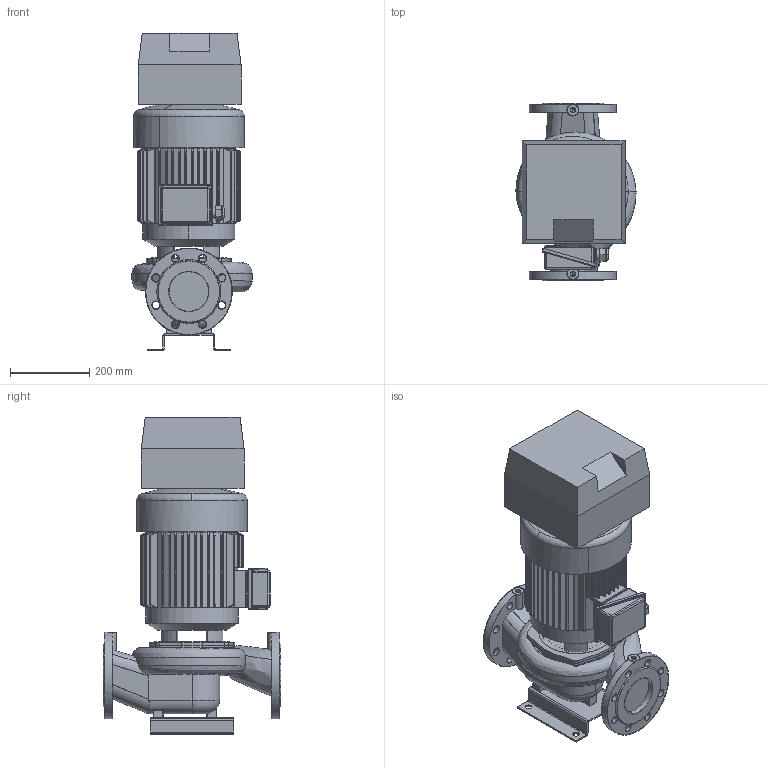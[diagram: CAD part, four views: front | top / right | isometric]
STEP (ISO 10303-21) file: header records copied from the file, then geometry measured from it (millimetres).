
FILE_DESCRIPTION(('STEP AP214'),'1');
FILE_NAME('export.stp','2018-08-08T12:09:55',(' '),(' '),'Spatial InterOp 3D',' ',' ');
FILE_SCHEMA(('AUTOMOTIVE_DESIGN { 1 0 10303 214 1 1 1 1 }'));
Length unit declared in the file: millimetre
Products named in the file (11): V_MOKN132; RU_OKN_132; TSUOJA_OKN_132_133; KYTKOTELO_OKN_100_133; V_Mkp-132_F19; V_EKF19OKN132; W_AL11022NC750KP; V_TLL65AB80A1102; V_PPAL1102; V_JALKA35973; NC_Size2
Assembly tree (10 placements, depth 4):
  W_AL11022NC750KP
    V_Mkp-132_F19
      V_MOKN132
        RU_OKN_132
        TSUOJA_OKN_132_133
        KYTKOTELO_OKN_100_133
      V_EKF19OKN132
    V_TLL65AB80A1102
    V_PPAL1102
    V_JALKA35973
    NC_Size2
Bounding box: 304.02 x 450 x 803.5 mm (x, y, z)
Volume: 31542153.9 mm3; surface area: 2510542.2 mm2
Topology: 8 solids, 9 shells, 971 faces, 2629 edges, 1658 vertices
Faces by surface type: cylinder 456, plane 343, cone 110, bspline 26, torus 16, sphere 12, offset 8
Entity records: 55646 total; most frequent: CARTESIAN_POINT 15128, ORIENTED_EDGE 5190, DIRECTION 4933, STYLED_ITEM 2703, PRESENTATION_STYLE_ASSIGNMENT 2703, COLOUR_RGB 2703, EDGE_CURVE 2595, AXIS2_PLACEMENT_3D 1956
